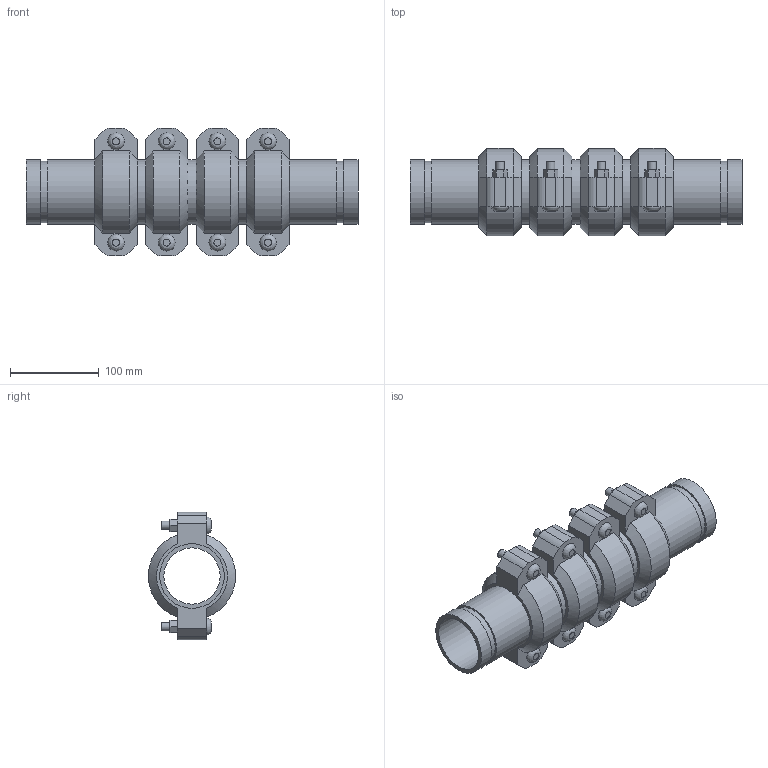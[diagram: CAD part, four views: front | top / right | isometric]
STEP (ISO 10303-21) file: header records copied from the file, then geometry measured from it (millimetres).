
FILE_DESCRIPTION(/* description */ ('VIC SS EXPANSION JOINT 4 COUPLINGS COMPRESSED STYLE 155P (OGS) (POTABLE WATER) ','CAx-IF Rec.Pracs.---Representation and Presentation of Product Manufacturing Information (PMI)---4.0---2014-10-13'),/* implementation_level */ '2;1');
FILE_NAME(/* name */ 'C:\Users\kkamble\AppData\Roaming\Autodesk\ApplicationPlugins\Victaulic.Temp\A932\Victaulic_SS_Expansion Joint_Compressed_4 Couplings_Style 155P (OGS)-Potable Water_4 Coup_Comp_2.5 (65).stp',/* time_stamp */ '2021-07-16T17:11:58+06:00',/* author */ ('kkamble'),/* organization */ ('Victaulic'),/* preprocessor_version */ 'ST-DEVELOPER v17.2',/* originating_system */ 'Autodesk Inventor 2019',/* authorisation */ '');
FILE_SCHEMA (('AP242_MANAGED_MODEL_BASED_3D_ENGINEERING_MIM_LF { 1 0 10303 442 1 1 4 }'));
Length unit declared in the file: inch
Products named in the file (4): 155P-02.5; Nipple-02.5; Nipple-02.5_1; 075-02.5
Assembly tree (9 placements, depth 2):
  155P-02.5
    Nipple-02.5  x2
    Nipple-02.5_1  x3
    075-02.5  x4
Bounding box: 374.65 x 98.22 x 144.27 mm (x, y, z)
Volume: 1206834.8 mm3; surface area: 349360.3 mm2
Topology: 9 solids, 17 shells, 272 faces, 658 edges, 464 vertices
Faces by surface type: plane 166, cylinder 82, cone 16, bspline 8
Full cylindrical faces by diameter (mm): 9.525 x16, 11.43 x8, 63.475 x5, 69.088 x10, 73.025 x19
Entity records: 2673 total; most frequent: CARTESIAN_POINT 479, DIRECTION 443, ORIENTED_EDGE 374, EDGE_CURVE 187, AXIS2_PLACEMENT_3D 176, VERTEX_POINT 134, EDGE_LOOP 101, LINE 91
